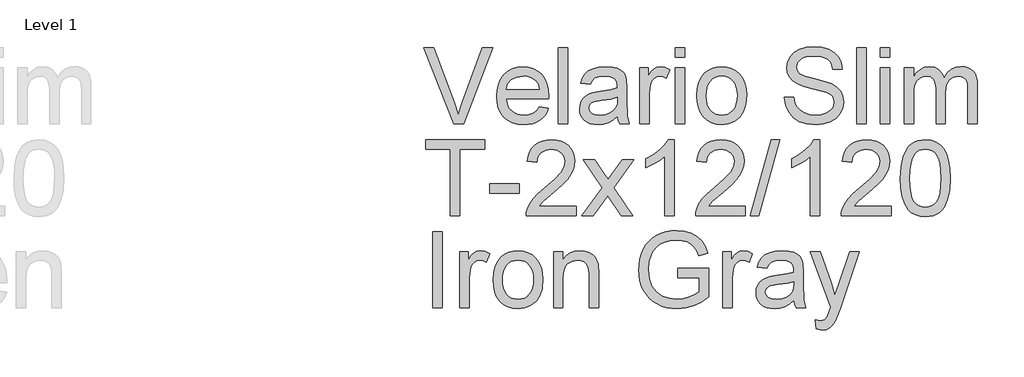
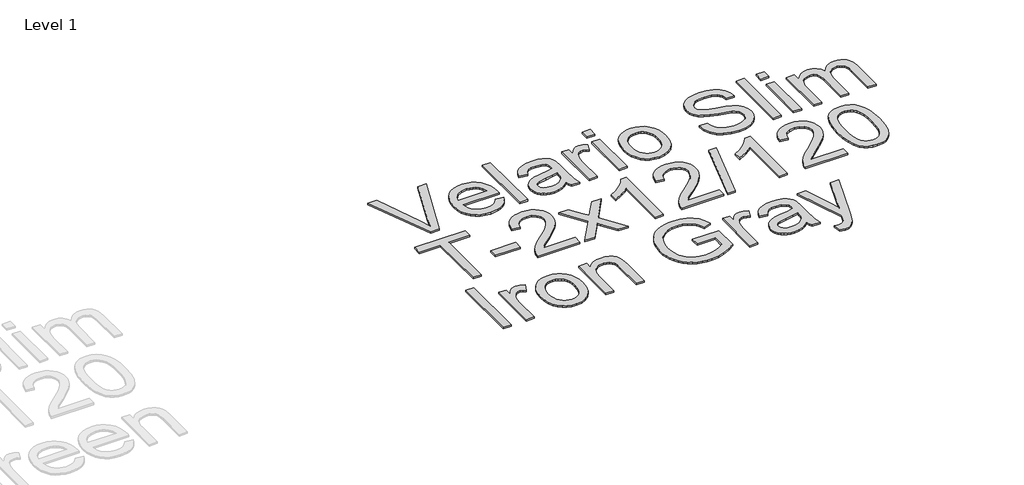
# One storey, part 5 of 13: 1 proxy.
"""IFC4 building model written with IfcOpenShell, lengths in millimetres."""

from ifc_helpers import new_model, si_unit, frame, origin, place, context, project, spatial, polyline, outline, extrude, element, save

model = new_model("IFC4")

# Units and contexts
model_context = context("Model", 3, world=origin())
ifc_project = project(units=[si_unit("LENGTHUNIT", "METRE", prefix="MILLI")], contexts=[model_context])

# Site, building, storey
site = spatial("IfcSite", under=ifc_project)
building = spatial("IfcBuilding", under=site)
storey = spatial("IfcBuildingStorey", under=building, Name="Level 1", Elevation=4000.0)

# Proxy
placement = place(None, origin())
element("IfcBuildingElementProxy", 1, Name="Elysium 400mm Arial", ObjectType="Elysium 400mm Arial", at=placement, inside=storey, context=model_context, shape_type="SweptSolid", body=[
    extrude(outline(polyline([(48301.8504181, -17959.2083157), (48141.9443775, -17557.3830752), (48195.7041998, -17557.3830752), (48302.7333349, -17846.8816799), (48324.4138471, -17912.1194204), (48345.8000538, -17846.8816799), (48453.1234945, -17557.3830752), (48506.8833168, -17557.3830752), (48353.7463049, -17959.2083157), (48301.8504181, -17959.2083157)])), frame((0.0, 0.0, 4000.0), z_axis=(0.0, 0.0, 1.0), x_axis=(1.0, 0.0, 0.0)), (0.0, 0.0, 1.0), 10.0),
    extrude(outline(polyline([(48753.9038138, -17871.3090444), (48803.1509502, -17877.5875638), (48795.6001723, -17897.3121701), (48785.4067753, -17914.6945943), (48772.5707594, -17929.7348366), (48757.0921244, -17942.4328968), (48739.130286, -17952.5189948), (48718.8446596, -17959.7233505), (48671.3020431, -17965.4868351), (48640.1363068, -17963.000566), (48612.3673475, -17955.5417585), (48587.9951653, -17943.1104128), (48567.0197602, -17925.7065287), (48550.1523708, -17903.8144843), (48538.1042354, -17877.9186575), (48530.8753542, -17848.0190484), (48528.4657271, -17814.1156569), (48530.8998797, -17779.0626341), (48538.2023373, -17748.1666779), (48550.3731, -17721.4277882), (48567.4121677, -17698.845965), (48588.3323905, -17680.9055864), (48612.1466183, -17668.0910302), (48638.8548512, -17660.4022965), (48668.457089, -17657.8393853), (48697.1058994, -17660.3961652), (48723.0139889, -17668.0665048), (48746.1813576, -17680.8504041), (48766.6080054, -17698.7478632), (48783.2822568, -17721.2806354), (48795.1924364, -17747.9704741), (48802.3385441, -17778.8173794), (48804.7205801, -17813.8213513), (48804.4262745, -17827.3594087), (48578.6938822, -17827.3594087), (48581.6032157, -17847.402846), (48587.38816, -17864.9569486), (48596.0487153, -17880.0217163), (48607.5848816, -17892.5971492), (48621.3589966, -17902.5115689), (48636.7333983, -17909.5932973), (48672.2830618, -17915.2586801), (48699.0158201, -17912.6344552), (48721.5301982, -17904.7617805), (48739.8261961, -17891.1501466), (48753.9038138, -17871.3090444)]), holes=[polyline([(48578.6938822, -17777.1312536), (48754.492425, -17777.1312536), (48747.6988708, -17750.594699), (48734.3815426, -17731.6119881), (48720.6840696, -17721.3112922), (48705.0981358, -17713.9536523), (48687.623741, -17709.5390684), (48668.2608853, -17708.0675404), (48634.403479, -17712.7641672), (48606.4076592, -17726.8540476), (48586.9467016, -17748.8166027), (48578.6938822, -17777.1312536)])]), frame((0.0, 0.0, 4000.0), z_axis=(0.0, 0.0, 1.0), x_axis=(1.0, 0.0, 0.0)), (0.0, 0.0, 1.0), 10.0),
    extrude(outline(polyline([(48854.9487351, -17959.2083157), (48854.9487351, -17557.3830752), (48905.1768902, -17557.3830752), (48905.1768902, -17959.2083157), (48854.9487351, -17959.2083157)])), frame((0.0, 0.0, 4000.0), z_axis=(0.0, 0.0, 1.0), x_axis=(1.0, 0.0, 0.0)), (0.0, 0.0, 1.0), 10.0),
    extrude(outline(polyline([(49168.8747043, -17921.5371994), (49144.8765355, -17942.1140657), (49120.1671282, -17955.5785467), (49094.1823966, -17963.009763), (49066.358255, -17965.4868351), (49043.9940954, -17963.9969131), (49024.3829194, -17959.5271468), (49007.5247269, -17952.0775364), (48993.4195181, -17941.6480818), (48982.2818907, -17928.9009707), (48974.3264426, -17914.4983906), (48969.5531737, -17898.4403415), (48967.962084, -17880.7268234), (48970.3655797, -17859.9047025), (48977.5760669, -17840.995568), (48988.6983658, -17824.8087602), (49002.8372972, -17812.1536195), (49019.4533006, -17802.5886877), (49038.0068159, -17795.6725062), (49081.4659423, -17788.1186625), (49132.8222688, -17780.1724114), (49168.5803987, -17770.8527342), (49168.8747043, -17759.6691216), (49165.4166136, -17737.2528453), (49155.0423413, -17722.5866165), (49131.8412502, -17711.6973094), (49099.5166855, -17708.0675404), (49069.5956166, -17710.4832988), (49048.6999193, -17717.7305741), (49034.4506233, -17731.1337415), (49024.4687585, -17752.0171761), (48974.2406034, -17745.7386567), (48982.9594067, -17718.2701344), (48995.9701666, -17696.687724), (49014.4868937, -17680.1820851), (49039.7235986, -17667.9438774), (49070.588898, -17660.3655083), (49105.9914086, -17657.8393853), (49139.9469168, -17660.0712027), (49166.8636161, -17666.7666551), (49187.1584395, -17676.834359), (49201.2483199, -17689.1829313), (49210.5925226, -17704.4500341), (49216.6503128, -17723.2733295), (49219.1028594, -17767.2229652), (49219.1028594, -17829.7138534), (49221.6535079, -17916.9754627), (49231.6598982, -17959.2083157), (49181.4317431, -17959.2083157), (49173.3873902, -17941.7461837), (49168.8747043, -17921.5371994)]), holes=[polyline([(49168.8747043, -17821.0808893), (49135.1276627, -17829.4440733), (49087.8425635, -17836.4828822), (49044.6286918, -17844.625337), (49033.3837655, -17850.1926178), (49025.0573697, -17857.8690888), (49019.9070218, -17867.0661387), (49018.1902391, -17877.1951563), (49021.9303727, -17892.1311653), (49033.1507736, -17904.369373), (49051.606187, -17912.5363533), (49077.0513583, -17915.2586801), (49104.0293713, -17912.2543104), (49127.8681246, -17903.2412016), (49147.1941921, -17889.9606615), (49160.6341477, -17874.1539985), (49166.593836, -17857.8690888), (49168.5803987, -17835.3056598), (49168.8747043, -17821.0808893)])]), frame((0.0, 0.0, 4000.0), z_axis=(0.0, 0.0, 1.0), x_axis=(1.0, 0.0, 0.0)), (0.0, 0.0, 1.0), 10.0),
    extrude(outline(polyline([(49288.1665726, -17959.2083157), (49288.1665726, -17664.1179047), (49332.1162083, -17664.1179047), (49332.1162083, -17707.7732348), (49348.3520671, -17682.4629535), (49363.3126015, -17667.55147), (49378.3221869, -17660.2674065), (49394.7051984, -17657.8393853), (49419.7211741, -17661.714409), (49445.1295573, -17673.33948), (49428.3541383, -17718.3682362), (49410.6958025, -17710.6427143), (49393.0374667, -17708.0675404), (49378.0401441, -17710.5446125), (49364.6369767, -17717.9758288), (49353.8089833, -17729.7971036), (49346.5371825, -17745.4443511), (49340.4303414, -17773.5014846), (49338.3947277, -17804.1092666), (49338.3947277, -17959.2083157), (49288.1665726, -17959.2083157)])), frame((0.0, 0.0, 4000.0), z_axis=(0.0, 0.0, 1.0), x_axis=(1.0, 0.0, 0.0)), (0.0, 0.0, 1.0), 10.0),
    extrude(outline(polyline([(49476.5221542, -17607.6112302), (49476.5221542, -17557.3830752), (49526.7503093, -17557.3830752), (49526.7503093, -17607.6112302), (49476.5221542, -17607.6112302)])), frame((0.0, 0.0, 4000.0), z_axis=(0.0, 0.0, 1.0), x_axis=(1.0, 0.0, 0.0)), (0.0, 0.0, 1.0), 10.0),
    extrude(outline(polyline([(49476.5221542, -17959.2083157), (49476.5221542, -17664.1179047), (49526.7503093, -17664.1179047), (49526.7503093, -17959.2083157), (49476.5221542, -17959.2083157)])), frame((0.0, 0.0, 4000.0), z_axis=(0.0, 0.0, 1.0), x_axis=(1.0, 0.0, 0.0)), (0.0, 0.0, 1.0), 10.0),
    extrude(outline(polyline([(49589.5355031, -17811.6631102), (49592.2516985, -17773.4463023), (49600.4002847, -17740.5147324), (49613.9812617, -17712.8684004), (49632.9946295, -17690.5073065), (49652.1367559, -17676.215091), (49673.2654452, -17666.0063656), (49696.3806972, -17659.8811304), (49721.482512, -17657.8393853), (49749.1932233, -17660.3256545), (49774.2490529, -17667.7844619), (49796.6500007, -17680.2158077), (49816.3960668, -17697.6196917), (49832.5123639, -17719.4075029), (49844.0240046, -17744.99063), (49850.9309891, -17774.369073), (49853.2333172, -17807.5428319), (49849.1620898, -17858.2860217), (49836.9484076, -17896.9136312), (49816.9478898, -17925.8414188), (49789.5161557, -17947.4851428), (49756.9340736, -17960.9864121), (49721.482512, -17965.4868351), (49693.3671306, -17963.009763), (49668.0783091, -17955.5785467), (49645.6160476, -17943.1931862), (49625.9803461, -17925.8536815), (49610.0357273, -17903.8543382), (49598.6467138, -17877.4894619), (49591.8133058, -17846.7590526), (49589.5355031, -17811.6631102)]), holes=[polyline([(49639.7636582, -17811.5650084), (49641.2167921, -17835.9279935), (49645.5761937, -17857.0229602), (49652.8418631, -17874.8499086), (49663.0138003, -17889.4088385), (49675.386898, -17900.7181442), (49689.2560493, -17908.7962197), (49704.6212539, -17913.643065), (49721.482512, -17915.2586801), (49738.257931, -17913.6338679), (49753.561822, -17908.7594315), (49767.394185, -17900.6353708), (49779.7550201, -17889.2616857), (49789.9269572, -17874.5586687), (49797.1926266, -17856.4466118), (49801.5520283, -17834.925515), (49803.0051622, -17809.9953785), (49801.5428312, -17786.4049456), (49797.1558384, -17765.8618018), (49789.8441838, -17748.3659473), (49779.6078673, -17733.9173819), (49767.201047, -17722.6080762), (49753.377881, -17714.5300008), (49738.1383694, -17709.6831555), (49721.482512, -17708.0675404), (49704.6212539, -17709.6770241), (49689.2560493, -17714.5054753), (49675.386898, -17722.5528939), (49663.0138003, -17733.81928), (49652.8418631, -17748.3352904), (49645.5761937, -17766.1315819), (49641.2167921, -17787.2081546), (49639.7636582, -17811.5650084)])]), frame((0.0, 0.0, 4000.0), z_axis=(0.0, 0.0, 1.0), x_axis=(1.0, 0.0, 0.0)), (0.0, 0.0, 1.0), 10.0),
    extrude(outline(polyline([(50054.1459375, -17821.0808893), (50104.3740926, -17821.0808893), (50110.1375772, -17848.9540818), (50120.5609004, -17871.3580953), (50136.8212846, -17889.1390584), (50160.0959521, -17903.1430997), (50188.5454931, -17912.229785), (50220.3304975, -17915.2586801), (50248.3140546, -17912.965549), (50272.8149955, -17906.0861556), (50292.6683605, -17895.1968486), (50306.70919, -17880.8739762), (50315.0601112, -17864.4296511), (50317.8437517, -17847.1759855), (50315.759087, -17830.3637783), (50309.5050931, -17815.8324395), (50296.8009016, -17803.4348163), (50275.365644, -17793.0237558), (50202.2307033, -17773.8448411), (50154.222103, -17761.1529123), (50123.5039564, -17749.0741201), (50098.5002434, -17732.1760738), (50080.780594, -17711.6973094), (50070.2223807, -17688.0792853), (50066.7029763, -17661.7634599), (50071.0562466, -17632.345163), (50084.1160574, -17604.9134289), (50105.5390523, -17581.6632868), (50134.9818746, -17564.789766), (50170.3230716, -17554.5258583), (50209.4411904, -17551.1045558), (50251.8211963, -17554.6852739), (50288.9037014, -17565.4274281), (50319.3643306, -17583.1102893), (50341.8787087, -17607.5131284), (50356.1280046, -17637.1153662), (50361.7933874, -17670.3964241), (50311.5652323, -17670.3964241), (50302.3436569, -17640.4263042), (50293.9804729, -17628.5682412), (50283.1156913, -17618.7948429), (50253.0719951, -17605.6982439), (50211.4032277, -17601.3327108), (50168.7534418, -17605.6491929), (50152.450138, -17611.0447955), (50139.4945604, -17618.5986391), (50122.5719886, -17637.6549265), (50116.9311314, -17660.2919319), (50120.9287824, -17679.5934739), (50132.9217354, -17695.1180941), (50161.2731745, -17708.9995081), (50214.9348949, -17723.1752276), (50270.3133979, -17736.6397087), (50303.8151849, -17748.387407), (50332.4486669, -17766.6098285), (50352.4246592, -17789.0996812), (50364.1600949, -17815.6117103), (50368.0719068, -17845.9006612), (50363.5714837, -17876.8640625), (50350.0702145, -17905.9880538), (50328.1199221, -17931.0530804), (50298.2724295, -17949.8395876), (50262.3794095, -17961.5750233), (50222.2925348, -17965.4868351), (50173.0821866, -17961.2684549), (50132.5783789, -17948.6133143), (50100.3151279, -17927.4723623), (50075.8264498, -17897.796548), (50060.1056259, -17861.6460106), (50054.1459375, -17821.0808893)])), frame((0.0, 0.0, 4000.0), z_axis=(0.0, 0.0, 1.0), x_axis=(1.0, 0.0, 0.0)), (0.0, 0.0, 1.0), 10.0),
    extrude(outline(polyline([(50437.13562, -17959.2083157), (50437.13562, -17557.3830752), (50487.3637751, -17557.3830752), (50487.3637751, -17959.2083157), (50437.13562, -17959.2083157)])), frame((0.0, 0.0, 4000.0), z_axis=(0.0, 0.0, 1.0), x_axis=(1.0, 0.0, 0.0)), (0.0, 0.0, 1.0), 10.0),
    extrude(outline(polyline([(50562.7060077, -17607.6112302), (50562.7060077, -17557.3830752), (50612.9341627, -17557.3830752), (50612.9341627, -17607.6112302), (50562.7060077, -17607.6112302)])), frame((0.0, 0.0, 4000.0), z_axis=(0.0, 0.0, 1.0), x_axis=(1.0, 0.0, 0.0)), (0.0, 0.0, 1.0), 10.0),
    extrude(outline(polyline([(50562.7060077, -17959.2083157), (50562.7060077, -17664.1179047), (50612.9341627, -17664.1179047), (50612.9341627, -17959.2083157), (50562.7060077, -17959.2083157)])), frame((0.0, 0.0, 4000.0), z_axis=(0.0, 0.0, 1.0), x_axis=(1.0, 0.0, 0.0)), (0.0, 0.0, 1.0), 10.0),
    extrude(outline(polyline([(50688.2763954, -17959.2083157), (50688.2763954, -17664.1179047), (50738.5045504, -17664.1179047), (50738.5045504, -17712.678328), (50753.6122377, -17690.3724164), (50773.036407, -17672.8980216), (50796.1148709, -17661.6040444), (50822.1854416, -17657.8393853), (50850.1199478, -17661.6776208), (50872.5116985, -17673.1923272), (50889.2380666, -17691.6232152), (50900.1764246, -17716.2099952), (50918.4846852, -17690.6728534), (50939.3681198, -17672.4320378), (50962.8267284, -17661.4875484), (50988.8605109, -17657.8393853), (51008.9683276, -17659.3568985), (51026.6174663, -17663.9094382), (51041.807927, -17671.4970044), (51054.5397098, -17682.119597), (51064.604348, -17695.8998434), (51071.7933753, -17712.9603709), (51076.1067917, -17733.3011796), (51077.5445972, -17756.9222693), (51077.5445972, -17959.2083157), (51027.3164421, -17959.2083157), (51027.3164421, -17778.5046797), (51026.1514825, -17753.4519158), (51022.6566035, -17736.5661323), (51016.108304, -17725.0023749), (51005.7830827, -17715.9156896), (50992.5025426, -17710.0295777), (50977.088287, -17708.0675404), (50949.8772821, -17713.095261), (50927.6939978, -17728.1784228), (50919.0886248, -17739.7483115), (50912.9419298, -17754.3470954), (50908.0245738, -17792.6313483), (50908.0245738, -17959.2083157), (50857.7964187, -17959.2083157), (50857.7964187, -17772.9128734), (50854.890151, -17744.5123834), (50846.1713477, -17724.2543482), (50830.8306685, -17712.1142423), (50808.058773, -17708.0675404), (50788.70818, -17710.7653417), (50770.878166, -17718.8587456), (50756.1628862, -17732.1515483), (50746.1564959, -17750.4475462), (50740.4175368, -17775.8314039), (50738.5045504, -17810.387786), (50738.5045504, -17959.2083157), (50688.2763954, -17959.2083157)])), frame((0.0, 0.0, 4000.0), z_axis=(0.0, 0.0, 1.0), x_axis=(1.0, 0.0, 0.0)), (0.0, 0.0, 1.0), 10.0),
    extrude(outline(polyline([(48283.6034712, -18447.1075871), (48283.6034712, -18095.5105016), (48151.7545641, -18095.5105016), (48151.7545641, -18045.2823465), (48465.6805333, -18045.2823465), (48465.6805333, -18095.5105016), (48333.8316262, -18095.5105016), (48333.8316262, -18447.1075871), (48283.6034712, -18447.1075871)])), frame((0.0, 0.0, 4000.0), z_axis=(0.0, 0.0, 1.0), x_axis=(1.0, 0.0, 0.0)), (0.0, 0.0, 1.0), 10.0),
    extrude(outline(polyline([(48490.7946108, -18327.8157188), (48490.7946108, -18277.5875638), (48647.7575954, -18277.5875638), (48647.7575954, -18327.8157188), (48490.7946108, -18327.8157188)])), frame((0.0, 0.0, 4000.0), z_axis=(0.0, 0.0, 1.0), x_axis=(1.0, 0.0, 0.0)), (0.0, 0.0, 1.0), 10.0),
    extrude(outline(polyline([(48949.1265259, -18396.8794321), (48949.1265259, -18447.1075871), (48685.4287117, -18447.1075871), (48686.5323577, -18429.4247259), (48690.8243143, -18412.4776287), (48703.2096748, -18385.4137765), (48721.3339945, -18359.1592648), (48747.551718, -18331.6784798), (48784.2172902, -18300.9358077), (48838.4185708, -18252.7923173), (48870.9393392, -18217.2549165), (48887.1997234, -18188.4129681), (48892.6198514, -18160.3558346), (48887.5062917, -18135.2049689), (48872.1656125, -18114.2970088), (48848.5843766, -18100.2071284), (48818.7491468, -18095.5105016), (48787.4178635, -18100.0967638), (48763.0763382, -18113.8555504), (48747.367777, -18135.7077409), (48741.9353862, -18164.5742148), (48691.7072311, -18158.2956955), (48696.0267789, -18132.3661462), (48703.8841252, -18109.7107466), (48715.27927, -18090.3294968), (48730.2122133, -18074.2223968), (48748.3395986, -18061.5611248), (48769.3180694, -18052.5173591), (48793.1476256, -18047.0910997), (48819.8282673, -18045.2823465), (48846.7480323, -18047.2934348), (48870.7063473, -18053.3266995), (48891.7032121, -18063.3821407), (48909.7386269, -18077.4597584), (48924.2239805, -18094.5172202), (48934.5706616, -18113.5121939), (48940.7786703, -18134.4446794), (48942.8480065, -18157.3146768), (48940.6161891, -18181.3373711), (48933.9207368, -18204.9431324), (48922.0381483, -18228.953564), (48904.2449225, -18254.1902689), (48875.8812207, -18284.3198043), (48832.2872042, -18323.0087274), (48774.5052055, -18371.3238961), (48751.8436746, -18396.8794321), (48949.1265259, -18396.8794321)])), frame((0.0, 0.0, 4000.0), z_axis=(0.0, 0.0, 1.0), x_axis=(1.0, 0.0, 0.0)), (0.0, 0.0, 1.0), 10.0),
    extrude(outline(polyline([(48980.5191228, -18447.1075871), (49087.8425635, -18298.7775667), (48986.7976422, -18152.0171761), (49047.2283913, -18152.0171761), (49095.9850184, -18222.6505191), (49118.7446511, -18256.0051534), (49138.4631261, -18228.7328348), (49193.9887819, -18152.0171761), (49254.419531, -18152.0171761), (49148.2733126, -18298.7775667), (49250.4954563, -18447.1075871), (49190.0647073, -18447.1075871), (49128.5548377, -18357.9329915), (49117.2731232, -18341.6480818), (49040.9498719, -18447.1075871), (48980.5191228, -18447.1075871)])), frame((0.0, 0.0, 4000.0), z_axis=(0.0, 0.0, 1.0), x_axis=(1.0, 0.0, 0.0)), (0.0, 0.0, 1.0), 10.0),
    extrude(outline(polyline([(49470.2436348, -18447.1075871), (49420.0154797, -18447.1075871), (49420.0154797, -18133.9664328), (49399.046206, -18150.9257928), (49372.436075, -18167.8606273), (49319.5591696, -18193.2199595), (49319.5591696, -18145.7386567), (49359.0083822, -18124.2788736), (49393.1846195, -18098.7478632), (49420.1258443, -18071.5981719), (49437.8700192, -18045.2823465), (49470.2436348, -18045.2823465), (49470.2436348, -18447.1075871)])), frame((0.0, 0.0, 4000.0), z_axis=(0.0, 0.0, 1.0), x_axis=(1.0, 0.0, 0.0)), (0.0, 0.0, 1.0), 10.0),
    extrude(outline(polyline([(49846.9547979, -18396.8794321), (49846.9547979, -18447.1075871), (49583.2569837, -18447.1075871), (49584.3606297, -18429.4247259), (49588.6525863, -18412.4776287), (49601.0379468, -18385.4137765), (49619.1622664, -18359.1592648), (49645.37999, -18331.6784798), (49682.0455621, -18300.9358077), (49736.2468428, -18252.7923173), (49768.7676111, -18217.2549165), (49785.0279953, -18188.4129681), (49790.4481234, -18160.3558346), (49785.3345637, -18135.2049689), (49769.9938845, -18114.2970088), (49746.4126486, -18100.2071284), (49716.5774188, -18095.5105016), (49685.2461355, -18100.0967638), (49660.9046102, -18113.8555504), (49645.196049, -18135.7077409), (49639.7636582, -18164.5742148), (49589.5355031, -18158.2956955), (49593.8550509, -18132.3661462), (49601.7123971, -18109.7107466), (49613.1075419, -18090.3294968), (49628.0404853, -18074.2223968), (49646.1678706, -18061.5611248), (49667.1463413, -18052.5173591), (49690.9758976, -18047.0910997), (49717.6565393, -18045.2823465), (49744.5763043, -18047.2934348), (49768.5346192, -18053.3266995), (49789.5314841, -18063.3821407), (49807.5668989, -18077.4597584), (49822.0522525, -18094.5172202), (49832.3989336, -18113.5121939), (49838.6069422, -18134.4446794), (49840.6762785, -18157.3146768), (49838.444461, -18181.3373711), (49831.7490087, -18204.9431324), (49819.8664203, -18228.953564), (49802.0731944, -18254.1902689), (49773.7094926, -18284.3198043), (49730.1154762, -18323.0087274), (49672.3334775, -18371.3238961), (49649.6719466, -18396.8794321), (49846.9547979, -18396.8794321)])), frame((0.0, 0.0, 4000.0), z_axis=(0.0, 0.0, 1.0), x_axis=(1.0, 0.0, 0.0)), (0.0, 0.0, 1.0), 10.0),
    extrude(outline(polyline([(49872.0688754, -18447.1075871), (49985.0822243, -18045.2823465), (50030.4052861, -18045.2823465), (49917.3919372, -18447.1075871), (49872.0688754, -18447.1075871)])), frame((0.0, 0.0, 4000.0), z_axis=(0.0, 0.0, 1.0), x_axis=(1.0, 0.0, 0.0)), (0.0, 0.0, 1.0), 10.0),
    extrude(outline(polyline([(50242.5015191, -18447.1075871), (50192.273364, -18447.1075871), (50192.273364, -18133.9664328), (50171.3040903, -18150.9257928), (50144.6939593, -18167.8606273), (50091.8170538, -18193.2199595), (50091.8170538, -18145.7386567), (50131.2662665, -18124.2788736), (50165.4425038, -18098.7478632), (50192.3837286, -18071.5981719), (50210.1279035, -18045.2823465), (50242.5015191, -18045.2823465), (50242.5015191, -18447.1075871)])), frame((0.0, 0.0, 4000.0), z_axis=(0.0, 0.0, 1.0), x_axis=(1.0, 0.0, 0.0)), (0.0, 0.0, 1.0), 10.0),
    extrude(outline(polyline([(50619.2126821, -18396.8794321), (50619.2126821, -18447.1075871), (50355.514868, -18447.1075871), (50356.618514, -18429.4247259), (50360.9104706, -18412.4776287), (50373.2958311, -18385.4137765), (50391.4201507, -18359.1592648), (50417.6378742, -18331.6784798), (50454.3034464, -18300.9358077), (50508.504727, -18252.7923173), (50541.0254954, -18217.2549165), (50557.2858796, -18188.4129681), (50562.7060077, -18160.3558346), (50557.5924479, -18135.2049689), (50542.2517687, -18114.2970088), (50518.6705328, -18100.2071284), (50488.835303, -18095.5105016), (50457.5040198, -18100.0967638), (50433.1624944, -18113.8555504), (50417.4539332, -18135.7077409), (50412.0215424, -18164.5742148), (50361.7933874, -18158.2956955), (50366.1129351, -18132.3661462), (50373.9702814, -18109.7107466), (50385.3654262, -18090.3294968), (50400.2983695, -18074.2223968), (50418.4257548, -18061.5611248), (50439.4042256, -18052.5173591), (50463.2337819, -18047.0910997), (50489.9144236, -18045.2823465), (50516.8341886, -18047.2934348), (50540.7925035, -18053.3266995), (50561.7893684, -18063.3821407), (50579.8247832, -18077.4597584), (50594.3101367, -18094.5172202), (50604.6568179, -18113.5121939), (50610.8648265, -18134.4446794), (50612.9341627, -18157.3146768), (50610.7023453, -18181.3373711), (50604.006893, -18204.9431324), (50592.1243046, -18228.953564), (50574.3310787, -18254.1902689), (50545.9673769, -18284.3198043), (50502.3733605, -18323.0087274), (50444.5913618, -18371.3238961), (50421.9298308, -18396.8794321), (50619.2126821, -18396.8794321)])), frame((0.0, 0.0, 4000.0), z_axis=(0.0, 0.0, 1.0), x_axis=(1.0, 0.0, 0.0)), (0.0, 0.0, 1.0), 10.0),
    extrude(outline(polyline([(50669.4408372, -18249.4323284), (50673.1319199, -18185.1142929), (50684.2051679, -18133.81928), (50702.5502168, -18094.7624749), (50714.4082797, -18079.5290946), (50728.0567018, -18067.1590625), (50743.5414681, -18057.5879993), (50760.9085639, -18050.7515255), (50801.2897443, -18045.2823465), (50832.2408828, -18048.5197081), (50859.9546598, -18058.2317928), (50883.1312255, -18074.0384558), (50900.4707302, -18095.5595525), (50913.5673292, -18122.6111419), (50924.0151779, -18155.009283), (50930.857783, -18196.1507528), (50933.1386513, -18249.4323284), (50929.4843569, -18313.3824819), (50918.5214734, -18364.5548674), (50900.2867892, -18403.6484608), (50888.4563173, -18418.9278263), (50874.8170924, -18431.3622377), (50859.313932, -18440.9976803), (50841.8916538, -18447.8801393), (50801.2897443, -18453.3861065), (50773.6250182, -18450.9948735), (50749.0995519, -18443.8211746), (50727.7133452, -18431.8650098), (50709.4663983, -18415.126379), (50691.9552153, -18384.8680849), (50679.4472275, -18347.1663118), (50671.9424348, -18302.0210596), (50669.4408372, -18249.4323284)]), holes=[polyline([(50719.6689923, -18249.3342265), (50721.1405203, -18292.9987537), (50725.5551042, -18328.3430164), (50732.9127441, -18355.3670146), (50743.21344, -18374.0707484), (50755.6723769, -18386.7963997), (50769.5047399, -18395.8861507), (50784.710529, -18401.3400012), (50801.2897443, -18403.1579514), (50817.8689595, -18401.3338699), (50833.0747487, -18395.8616252), (50846.9071117, -18386.7412174), (50859.3660486, -18373.9726465), (50869.6667444, -18355.2382559), (50877.0243843, -18328.220389), (50881.4389683, -18292.9190459), (50882.9104963, -18249.3342265), (50881.4880192, -18206.825462), (50877.2205881, -18172.103533), (50870.1082028, -18145.1684396), (50860.1508635, -18126.0201817), (50847.9003931, -18112.6721967), (50833.9086145, -18103.1379216), (50818.1755279, -18097.4173566), (50800.7011331, -18095.5105016), (50784.207757, -18097.1904961), (50769.2594852, -18102.2304794), (50755.8563179, -18110.6304516), (50743.9982549, -18122.3904127), (50733.3542025, -18143.2370591), (50725.7513079, -18171.3432435), (50721.1895712, -18206.708966), (50719.6689923, -18249.3342265)])]), frame((0.0, 0.0, 4000.0), z_axis=(0.0, 0.0, 1.0), x_axis=(1.0, 0.0, 0.0)), (0.0, 0.0, 1.0), 10.0),
    extrude(outline(polyline([(48189.4256804, -18935.0068585), (48189.4256804, -18533.1816179), (48239.6538355, -18533.1816179), (48239.6538355, -18935.0068585), (48189.4256804, -18935.0068585)])), frame((0.0, 0.0, 4000.0), z_axis=(0.0, 0.0, 1.0), x_axis=(1.0, 0.0, 0.0)), (0.0, 0.0, 1.0), 10.0),
    extrude(outline(polyline([(48333.8316262, -18935.0068585), (48333.8316262, -18639.9164474), (48377.7812619, -18639.9164474), (48377.7812619, -18683.5717775), (48394.0171206, -18658.2614963), (48408.9776551, -18643.3500127), (48423.9872405, -18636.0659492), (48440.370252, -18633.6379281), (48465.3862277, -18637.5129517), (48490.7946108, -18649.1380228), (48474.0191919, -18694.166779), (48456.3608561, -18686.4412571), (48438.7025203, -18683.8660831), (48423.7051976, -18686.3431552), (48410.3020303, -18693.7743715), (48399.4740369, -18705.5956463), (48392.2022361, -18721.2428938), (48386.095395, -18749.3000273), (48384.0597813, -18779.9078093), (48384.0597813, -18935.0068585), (48333.8316262, -18935.0068585)])), frame((0.0, 0.0, 4000.0), z_axis=(0.0, 0.0, 1.0), x_axis=(1.0, 0.0, 0.0)), (0.0, 0.0, 1.0), 10.0),
    extrude(outline(polyline([(48509.630169, -18787.461653), (48512.3463644, -18749.244845), (48520.4949506, -18716.3132751), (48534.0759276, -18688.6669432), (48553.0892954, -18666.3058492), (48572.2314218, -18652.0136337), (48593.3601111, -18641.8049084), (48616.4753631, -18635.6796731), (48641.5771779, -18633.6379281), (48669.2878892, -18636.1241972), (48694.3437188, -18643.5830047), (48716.7446666, -18656.0143504), (48736.4907327, -18673.4182345), (48752.6070298, -18695.2060456), (48764.1186705, -18720.7891727), (48771.025655, -18750.1676157), (48773.3279831, -18783.3413746), (48769.2567557, -18834.0845645), (48757.0430735, -18872.712174), (48737.0425557, -18901.6399615), (48709.6108216, -18923.2836856), (48677.0287395, -18936.7849548), (48641.5771779, -18941.2853779), (48613.4617964, -18938.8083058), (48588.172975, -18931.3770895), (48565.7107135, -18918.991729), (48546.075012, -18901.6522243), (48530.1303932, -18879.652881), (48518.7413797, -18853.2880046), (48511.9079717, -18822.5575953), (48509.630169, -18787.461653)]), holes=[polyline([(48559.8583241, -18787.3635511), (48561.3114579, -18811.7265362), (48565.6708596, -18832.821503), (48572.936529, -18850.6484513), (48583.1084662, -18865.2073813), (48595.4815639, -18876.516687), (48609.3507151, -18884.5947624), (48624.7159198, -18889.4416077), (48641.5771779, -18891.0572228), (48658.3525969, -18889.4324107), (48673.6564879, -18884.5579742), (48687.4888509, -18876.4339135), (48699.849686, -18865.0602285), (48710.0216231, -18850.3572114), (48717.2872925, -18832.2451545), (48721.6466942, -18810.7240578), (48723.0998281, -18785.7939213), (48721.6374971, -18762.2034883), (48717.2505043, -18741.6603446), (48709.9388497, -18724.16449), (48699.7025332, -18709.7159247), (48687.2957129, -18698.406619), (48673.4725469, -18690.3285435), (48658.2330353, -18685.4816982), (48641.5771779, -18683.8660831), (48624.7159198, -18685.4755669), (48609.3507151, -18690.3040181), (48595.4815639, -18698.3514367), (48583.1084662, -18709.6178228), (48572.936529, -18724.1338332), (48565.6708596, -18741.9301247), (48561.3114579, -18763.0066974), (48559.8583241, -18787.3635511)])]), frame((0.0, 0.0, 4000.0), z_axis=(0.0, 0.0, 1.0), x_axis=(1.0, 0.0, 0.0)), (0.0, 0.0, 1.0), 10.0),
    extrude(outline(polyline([(48829.8346576, -18935.0068585), (48829.8346576, -18639.9164474), (48880.0628127, -18639.9164474), (48880.0628127, -18681.1192309), (48897.512682, -18660.3461609), (48918.469693, -18645.5082538), (48942.9338456, -18636.6055095), (48970.90514, -18633.6379281), (48995.6635983, -18636.029161), (49018.3373919, -18643.2028599), (49037.2465265, -18654.2638453), (49050.7110075, -18668.3169375), (49059.8467437, -18685.3253484), (49065.7696438, -18705.2522898), (49068.4183942, -18753.8127132), (49068.4183942, -18935.0068585), (49018.1902391, -18935.0068585), (49018.1902391, -18760.5817419), (49016.7432366, -18734.609273), (49012.4022291, -18716.1415968), (49004.3946643, -18702.9101078), (48991.9479901, -18692.6462001), (48975.9941743, -18686.0611124), (48957.4651844, -18683.8660831), (48928.0468876, -18688.7957019), (48902.9695982, -18703.5845581), (48892.9478795, -18715.6572189), (48885.7895091, -18732.1567264), (48881.4944868, -18753.0830805), (48880.0628127, -18778.4362814), (48880.0628127, -18935.0068585), (48829.8346576, -18935.0068585)])), frame((0.0, 0.0, 4000.0), z_axis=(0.0, 0.0, 1.0), x_axis=(1.0, 0.0, 0.0)), (0.0, 0.0, 1.0), 10.0),
    extrude(outline(polyline([(49489.0791929, -18778.0438739), (49489.0791929, -18727.8157188), (49652.3206969, -18727.8157188), (49652.3206969, -18878.0096747), (49612.6507551, -18905.6008244), (49571.7300145, -18925.3928757), (49529.656577, -18937.3122523), (49486.5285444, -18941.2853779), (49457.677399, -18939.706551), (49430.1812855, -18934.9700703), (49404.0402041, -18927.0759358), (49379.2541547, -18916.0241476), (49356.6232806, -18901.9802524), (49336.9477252, -18885.1097972), (49320.2274885, -18865.4127821), (49306.4625705, -18842.8892069), (49295.7112192, -18818.2595073), (49288.0316826, -18792.2441189), (49283.4239606, -18764.8430416), (49281.8880533, -18736.0562755), (49288.0071571, -18679.4637619), (49295.6560369, -18652.6482302), (49306.3644687, -18626.8198484), (49319.94238, -18603.1129195), (49336.1996985, -18582.6617463), (49355.1364242, -18565.4663287), (49376.7525571, -18551.5266667), (49400.5790476, -18540.7538556), (49426.1468463, -18533.0589906), (49453.4559531, -18528.4420715), (49482.506368, -18526.9030985), (49523.8808297, -18530.4715539), (49561.0859621, -18541.1769199), (49592.4172454, -18558.2466445), (49616.1701595, -18580.9081754), (49633.7426562, -18610.2528959), (49646.5326869, -18647.3721892), (49600.2286064, -18660.4197373), (49589.8911224, -18633.9444964), (49577.3218209, -18613.9685041), (49560.6935547, -18598.9098677), (49538.1791766, -18587.1866948), (49511.3360537, -18579.6451139), (49481.721553, -18577.1312536), (49447.0548064, -18579.8413176), (49417.4157803, -18587.9715097), (49392.9148394, -18600.504023), (49373.6623483, -18616.4210507), (49358.8857549, -18634.9009896), (49347.8125068, -18655.1222366), (49336.040283, -18693.0386076), (49332.1162083, -18733.9961363), (49336.8373606, -18782.0292622), (49351.0008174, -18821.5520512), (49374.1773831, -18852.2824605), (49405.937862, -18873.9384473), (49443.1062063, -18886.7775289), (49482.506368, -18891.0572228), (49517.295742, -18887.832124), (49551.2267247, -18878.1568275), (49580.6940725, -18864.8272366), (49602.0925419, -18850.6392543), (49602.0925419, -18778.0438739), (49489.0791929, -18778.0438739)])), frame((0.0, 0.0, 4000.0), z_axis=(0.0, 0.0, 1.0), x_axis=(1.0, 0.0, 0.0)), (0.0, 0.0, 1.0), 10.0),
    extrude(outline(polyline([(49727.6629296, -18935.0068585), (49727.6629296, -18639.9164474), (49771.6125652, -18639.9164474), (49771.6125652, -18683.5717775), (49787.848424, -18658.2614963), (49802.8089584, -18643.3500127), (49817.8185438, -18636.0659492), (49834.2015554, -18633.6379281), (49859.217531, -18637.5129517), (49884.6259142, -18649.1380228), (49867.8504952, -18694.166779), (49850.1921594, -18686.4412571), (49832.5338236, -18683.8660831), (49817.536501, -18686.3431552), (49804.1333336, -18693.7743715), (49793.3053402, -18705.5956463), (49786.0335395, -18721.2428938), (49779.9266983, -18749.3000273), (49777.8910846, -18779.9078093), (49777.8910846, -18935.0068585), (49727.6629296, -18935.0068585)])), frame((0.0, 0.0, 4000.0), z_axis=(0.0, 0.0, 1.0), x_axis=(1.0, 0.0, 0.0)), (0.0, 0.0, 1.0), 10.0),
    extrude(outline(polyline([(50104.3740926, -18897.3357422), (50080.3759238, -18917.9126085), (50055.6665165, -18931.3770895), (50029.6817849, -18938.8083058), (50001.8576433, -18941.2853779), (49979.4934837, -18939.7954558), (49959.8823076, -18935.3256896), (49943.0241152, -18927.8760792), (49928.9189064, -18917.4466246), (49917.781279, -18904.6995135), (49909.8258308, -18890.2969334), (49905.0525619, -18874.2388843), (49903.4614723, -18856.5253662), (49905.864968, -18835.7032453), (49913.0754551, -18816.7941107), (49924.1977541, -18800.6073029), (49938.3366855, -18787.9521623), (49954.9526889, -18778.3872304), (49973.5062042, -18771.4710489), (50016.9653306, -18763.9172053), (50068.3216571, -18755.9709542), (50104.079787, -18746.651277), (50104.3740926, -18735.4676643), (50100.9160019, -18713.0513881), (50090.5417296, -18698.3851592), (50067.3406384, -18687.4958522), (50035.0160738, -18683.8660831), (50005.0950048, -18686.2818416), (49984.1993075, -18693.5291169), (49969.9500116, -18706.9322842), (49959.9681468, -18727.8157188), (49909.7399917, -18721.5371994), (49918.458795, -18694.0686771), (49931.4695549, -18672.4862668), (49949.986282, -18655.9806279), (49975.2229868, -18643.7424202), (50006.0882862, -18636.1640511), (50041.4907969, -18633.6379281), (50075.4463051, -18635.8697455), (50102.3630044, -18642.5651978), (50122.6578278, -18652.6329017), (50136.7477082, -18664.9814741), (50146.0919109, -18680.2485769), (50152.1497011, -18699.0718723), (50154.6022477, -18743.021508), (50154.6022477, -18805.5123962), (50157.1528962, -18892.7740055), (50167.1592865, -18935.0068585), (50116.9311314, -18935.0068585), (50108.8867784, -18917.5447265), (50104.3740926, -18897.3357422)]), holes=[polyline([(50104.3740926, -18796.8794321), (50070.6270509, -18805.2426161), (50023.3419518, -18812.2814249), (49980.1280801, -18820.4238797), (49968.8831538, -18825.9911606), (49960.556758, -18833.6676316), (49955.40641, -18842.8646815), (49953.6896274, -18852.9936991), (49957.429761, -18867.9297081), (49968.6501619, -18880.1679158), (49987.1055753, -18888.3348961), (50012.5507466, -18891.0572228), (50039.5287596, -18888.0528532), (50063.3675129, -18879.0397443), (50082.6935804, -18865.7592043), (50096.1335359, -18849.9525412), (50102.0932242, -18833.6676316), (50104.079787, -18811.1042025), (50104.3740926, -18796.8794321)])]), frame((0.0, 0.0, 4000.0), z_axis=(0.0, 0.0, 1.0), x_axis=(1.0, 0.0, 0.0)), (0.0, 0.0, 1.0), 10.0),
    extrude(outline(polyline([(50223.6659609, -19048.0202074), (50217.3874415, -18999.6559878), (50242.8939265, -19004.0705717), (50256.3093566, -19002.6848829), (50266.7326798, -18998.5278163), (50281.3498578, -18983.0767725), (50295.0841189, -18946.0923693), (50299.0081935, -18933.927738), (50192.273364, -18639.9164474), (50245.2483713, -18639.9164474), (50301.8531476, -18803.7465626), (50321.5716226, -18869.2786087), (50341.2900975, -18811.3985081), (50399.4645037, -18639.9164474), (50452.0471035, -18639.9164474), (50349.3344505, -18942.0701928), (50322.6507431, -19007.6022389), (50308.9900583, -19028.5224617), (50293.5144891, -19043.0170123), (50275.5373222, -19051.4782982), (50254.3718448, -19054.2987268), (50223.6659609, -19048.0202074)])), frame((0.0, 0.0, 4000.0), z_axis=(0.0, 0.0, 1.0), x_axis=(1.0, 0.0, 0.0)), (0.0, 0.0, 1.0), 10.0),
])

save(model, "model.ifc")
